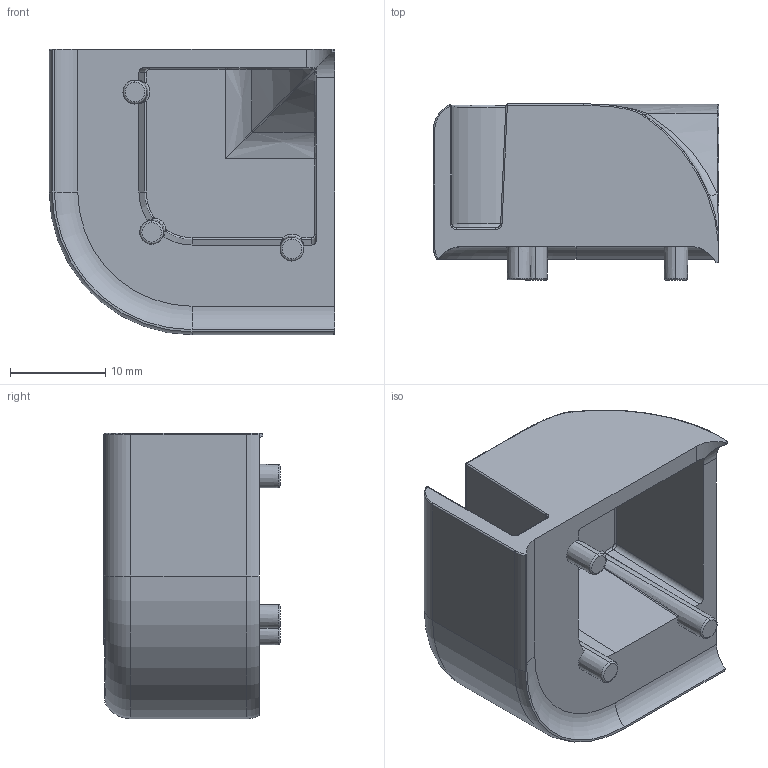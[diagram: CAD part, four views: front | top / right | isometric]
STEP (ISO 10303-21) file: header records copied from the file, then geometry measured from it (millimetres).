
FILE_DESCRIPTION (( 'STEP AP203' ), '1' );
FILE_NAME ('013.030.118.STEP', '2020-09-28T06:41:31', ( '' ), ( '' ), 'SwSTEP 2.0', 'SolidWorks 2018', '' );
FILE_SCHEMA (( 'CONFIG_CONTROL_DESIGN' ));
Length unit declared in the file: millimetre
Products named in the file (1): 013.030.118
Bounding box: 30 x 18.5 x 30 mm (x, y, z)
Volume: 5199.6 mm3; surface area: 5324.5 mm2
Topology: 1 solids, 1 shells, 144 faces, 347 edges, 196 vertices
Faces by surface type: cylinder 41, bspline 35, torus 34, plane 24, cone 9, sphere 1
Entity records: 4871 total; most frequent: CARTESIAN_POINT 1703, ORIENTED_EDGE 676, DIRECTION 638, EDGE_CURVE 338, AXIS2_PLACEMENT_3D 267, VERTEX_POINT 196, CIRCLE 157, ADVANCED_FACE 144
